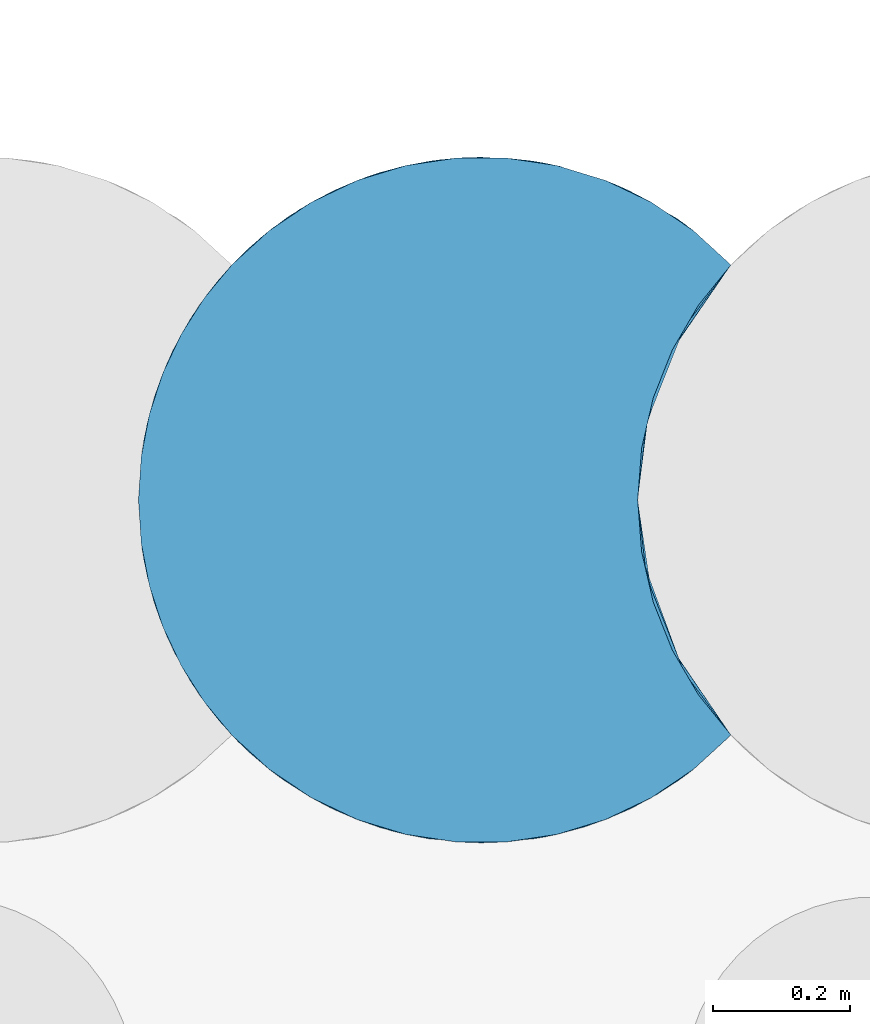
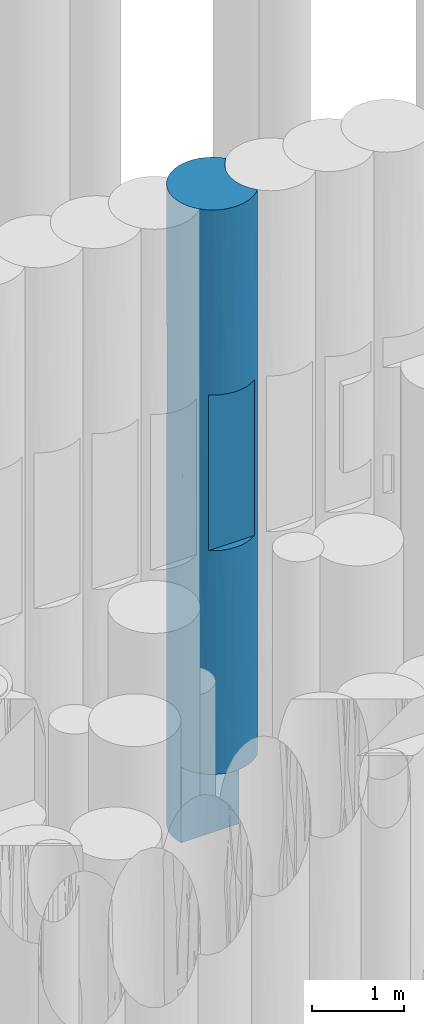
# One storey, part 68 of 104: 1 pile.
"""IFC2X3 building model written with IfcOpenShell, lengths in millimetres."""

from ifc_helpers import new_model, entity, si_unit, converted_unit, derived_unit, direction, frame, origin, place, context, subcontext, project, spatial, faceted_brep, source, transform, mapped, material, element, save


model = new_model("IFC2X3")

# Units and contexts
model_context = context("Model", 3, precision=0.01, world=origin(), true_north=direction((6.12303176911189e-17, 1.0)))
body_context = subcontext(model_context, "Body", "Model", "MODEL_VIEW")
ifc_project = project(units=[si_unit("LENGTHUNIT", "METRE", prefix="MILLI"), si_unit("AREAUNIT", "SQUARE_METRE", prefix="MILLI"), si_unit("VOLUMEUNIT", "CUBIC_METRE"), converted_unit("PLANEANGLEUNIT", "DEGREE", entity("IfcRatioMeasure", 0.0174532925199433), si_unit("PLANEANGLEUNIT", "RADIAN"), dimensions=[0, 0, 0, 0, 0, 0, 0]), si_unit("MASSUNIT", "GRAM", prefix="KILO"), derived_unit("MASSDENSITYUNIT", [(si_unit("MASSUNIT", "GRAM", prefix="KILO"), 1), (si_unit("LENGTHUNIT", "METRE"), -3)]), derived_unit("MOMENTOFINERTIAUNIT", [(si_unit("LENGTHUNIT", "METRE"), 4)]), si_unit("TIMEUNIT", "SECOND"), si_unit("FREQUENCYUNIT", "HERTZ"), si_unit("THERMODYNAMICTEMPERATUREUNIT", "DEGREE_CELSIUS"), derived_unit("THERMALTRANSMITTANCEUNIT", [(si_unit("MASSUNIT", "GRAM", prefix="KILO"), 1), (si_unit("THERMODYNAMICTEMPERATUREUNIT", "KELVIN"), -1), (si_unit("TIMEUNIT", "SECOND"), -3)]), derived_unit("VOLUMETRICFLOWRATEUNIT", [(si_unit("LENGTHUNIT", "METRE"), 3), (si_unit("TIMEUNIT", "SECOND"), -1)]), si_unit("ELECTRICCURRENTUNIT", "AMPERE"), si_unit("ELECTRICVOLTAGEUNIT", "VOLT"), si_unit("POWERUNIT", "WATT"), si_unit("FORCEUNIT", "NEWTON", prefix="KILO"), si_unit("ILLUMINANCEUNIT", "LUX"), si_unit("LUMINOUSFLUXUNIT", "LUMEN"), si_unit("LUMINOUSINTENSITYUNIT", "CANDELA"), derived_unit("USERDEFINED", [(si_unit("MASSUNIT", "GRAM", prefix="KILO"), -1), (si_unit("LENGTHUNIT", "METRE"), -2), (si_unit("TIMEUNIT", "SECOND"), 3), (si_unit("LUMINOUSFLUXUNIT", "LUMEN"), 1)]), derived_unit("LINEARVELOCITYUNIT", [(si_unit("LENGTHUNIT", "METRE"), 1), (si_unit("TIMEUNIT", "SECOND"), -1)]), si_unit("PRESSUREUNIT", "PASCAL"), derived_unit("USERDEFINED", [(si_unit("LENGTHUNIT", "METRE"), -2), (si_unit("MASSUNIT", "GRAM", prefix="KILO"), 1), (si_unit("TIMEUNIT", "SECOND"), -2)]), derived_unit("LINEARFORCEUNIT", [(si_unit("MASSUNIT", "GRAM", prefix="KILO"), 1), (si_unit("LENGTHUNIT", "METRE"), 1), (si_unit("TIMEUNIT", "SECOND"), -2), (si_unit("LENGTHUNIT", "METRE"), -1)]), derived_unit("PLANARFORCEUNIT", [(si_unit("MASSUNIT", "GRAM", prefix="KILO"), 1), (si_unit("LENGTHUNIT", "METRE"), 1), (si_unit("TIMEUNIT", "SECOND"), -2), (si_unit("LENGTHUNIT", "METRE"), -2)])], contexts=[model_context])

# Site, building, storey
site_placement = place(None, origin())
site = spatial("IfcSite", under=ifc_project, at=site_placement, Name="Theater aan de Parade", CompositionType="ELEMENT")
building_placement = place(site_placement, origin())
building = spatial("IfcBuilding", under=site, at=building_placement, Name="Theater aan de Parade", CompositionType="ELEMENT")
storey_placement = place(building_placement, frame((0.0, 0.0, -5520.0)))
storey = spatial("IfcBuildingStorey", under=building, at=storey_placement, Name="-2 kelder", CompositionType="ELEMENT", Elevation=-5520.0)

# Pile
ifc_material = material(Name="00_PBT_MAT_grout")
shared_shape = source(origin(), body_context, "Body", "Brep", [
    faceted_brep([(464.560582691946, 1000.22181762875, 0.0), (538.616668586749, 1000.22280478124, 0.0), (611.860911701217, 989.28522369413, 0.0), (682.686734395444, 967.648790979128, 0.0), (749.540520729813, 935.787802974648, 0.0), (810.955686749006, 894.400737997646, 0.0), (865.59527223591, 844.38383680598, 0.0), (818.150067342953, 785.695330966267, 0.0), (780.078223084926, 720.53458465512, 0.0), (752.247075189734, 650.386060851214, 0.0), (735.290660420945, 576.847851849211, 0.0), (729.595272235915, 501.595272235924, 0.0), (734.989632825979, 428.347327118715, 0.0), (751.055970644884, 356.681032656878, 0.0), (23.0559706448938, 356.681032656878, 0.0), (6.98989759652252, 428.345539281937, 0.0), (1.5952722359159, 501.595272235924, 0.0), (5.55623942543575, 564.406719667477, 0.0), (17.3678310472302, 626.189755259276, 0.0), (36.8430214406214, 686.000655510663, 0.0), (63.6725852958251, 742.891190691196, 0.0), (97.4346759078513, 795.966147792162, 0.0), (137.595794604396, 844.383899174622, 0.0), (192.227350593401, 894.394825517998, 0.0), (253.640398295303, 935.782306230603, 0.0), (320.492432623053, 967.644369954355, 0.0), (391.316996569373, 989.282366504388, 0.0), (865.59527223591, 844.38383680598, 1561.53794073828), (789.40132134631, 910.456713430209, 1491.00548248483), (799.657477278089, 903.041310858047, 2504.88210618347), (26.1639417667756, 656.401764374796, 1423.71039154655), (50.5548382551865, 717.378790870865, 815.522482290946), (716.704326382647, 952.957759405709, 974.743749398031), (575.441567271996, 996.111929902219, 1365.35911550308), (789.401320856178, 910.456713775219, 6978.99451100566), (810.955686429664, 894.400738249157, 8470.0), (865.59527223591, 844.38383680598, 6908.46275058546), (790.879670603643, 909.412065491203, 5813.01191791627), (865.59527223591, 844.38383680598, 5571.7337191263), (865.59527223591, 844.38383680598, 5346.92480984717), (538.616668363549, 1000.22280479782, 8470.0), (611.860911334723, 989.285223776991, 8470.0), (575.441567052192, 996.111929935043, 7150.26699538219), (36.7297114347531, 685.714826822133, 2307.62641859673), (64.0996250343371, 743.664598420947, 1628.37591838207), (222.166559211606, 916.227150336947, 956.748364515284), (355.503556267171, 979.776420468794, 1427.16858692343), (501.588606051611, 1001.59527219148, 2596.73325583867), (463.496981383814, 1000.14167953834, 1072.24580175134), (865.59527223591, 844.38383680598, 8470.0), (222.166558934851, 916.227150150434, 1972.30012717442), (217.544033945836, 913.074183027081, 3221.63866937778), (333.161300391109, 972.371224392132, 2861.22474137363), (286.475705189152, 952.952749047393, 7480.63704182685), (192.227350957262, 894.394825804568, 8470.0), (253.640398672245, 935.78230644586, 8470.0), (100.736484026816, 800.446793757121, 6793.03274327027), (163.989554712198, 870.407391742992, 7127.47212773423), (196.918801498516, 898.044825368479, 6218.94986965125), (785.426204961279, 913.226176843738, 4790.96227754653), (79.757522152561, 770.022008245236, 7621.93766369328), (63.6725852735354, 742.89119065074, 8470.0), (97.4346759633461, 795.966147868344, 8470.0), (692.579720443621, 963.682861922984, 4235.0), (794.511313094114, 906.811502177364, 3679.03770634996), (116.757578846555, 820.812987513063, 1364.08942331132), (716.704325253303, 952.957759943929, 6462.73277506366), (716.704325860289, 952.957759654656, 7495.25624707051), (716.704325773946, 952.957759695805, 2007.26721704), (36.8430215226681, 686.000655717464, 8470.0), (464.560582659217, 1000.22181762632, 8470.0), (682.686733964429, 967.648791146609, 8470.0), (749.540520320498, 935.787803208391, 8470.0), (1.5952722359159, 501.595272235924, 1058.75716887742), (1.5952722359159, 501.595272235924, 1561.53750746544), (286.475704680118, 952.952748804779, 4235.0), (286.475704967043, 952.952748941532, 6434.30301971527), (236.846141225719, 925.750783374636, 5334.65151001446), (13.5254225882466, 610.167008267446, 7372.75274235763), (17.3678311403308, 626.189755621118, 8470.0), (150.377453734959, 857.468907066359, 2562.89631213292), (79.7181549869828, 769.960131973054, 2632.86902156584), (49.3623188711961, 714.868233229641, 6938.44019104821), (712.525517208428, 954.925650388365, 3129.72297922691), (501.588606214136, 1001.59527219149, 5873.26673738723), (569.755285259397, 996.927698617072, 4755.12996065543), (476.322275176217, 1000.95613936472, 5007.14730889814), (391.316996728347, 989.28236654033, 8470.0), (427.735977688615, 996.109988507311, 7104.64110728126), (9.23358182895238, 588.658271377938, 2342.30656064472), (116.757578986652, 820.812987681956, 5893.90174013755), (33.0262183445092, 676.074616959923, 5347.10350774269), (137.605579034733, 844.3947810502, 8470.0), (438.38163008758, 997.583211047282, 3963.78240309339), (320.492432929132, 967.644370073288, 8470.0), (43.0784257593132, 701.000140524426, 4473.88274990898), (11.2142039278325, 599.198591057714, 4667.65803343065), (1.5952722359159, 501.595272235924, 8470.0), (5.55623942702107, 564.406719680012, 8470.0), (9.51542927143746, 590.237407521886, 5495.65544289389), (116.185815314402, 820.122430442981, 3373.1842670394), (182.11813440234, 886.217630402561, 4288.45203817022), (591.824887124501, 993.386504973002, 3489.10403538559), (18.4305593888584, 630.249305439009, 6406.00282362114), (1.5952722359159, 501.595272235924, 2117.50286755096), (1.5952722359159, 501.595272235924, 3123.07501493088), (616.099631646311, 988.30745790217, 2440.53317146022), (386.192771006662, 988.095285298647, 6175.64873710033), (381.51979902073, 986.963051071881, 5169.51578005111), (613.759023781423, 988.852178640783, 6106.01087867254), (692.700363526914, 963.6329807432, 5361.94747271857), (75.4806634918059, 763.179561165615, 5112.4389697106), (135.725798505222, 842.38777243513, 5005.62909266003), (62.9697281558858, 741.611171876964, 3455.71179201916), (97.3058699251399, 795.789220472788, 4263.74923889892), (26.3526093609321, 656.979992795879, 3676.29325435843), (1.5952722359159, 501.595272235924, 3176.2485662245), (1.5952722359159, 501.595272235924, 4234.99353122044), (865.59527223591, 844.38383680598, 3123.07588147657), (865.59527223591, 844.38383680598, 2898.27009289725), (865.59527223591, 844.38383680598, 4235.00034566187), (1.5952722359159, 501.595272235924, 5346.92498506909), (1.5952722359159, 501.595272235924, 5571.73182473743), (1.5952722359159, 501.595272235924, 6908.46249253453), (9.64635078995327, 412.229402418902, 1740.22189428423), (142.565506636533, 153.604428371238, 5505.0), (213.720794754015, 92.7820077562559, 4990.0), (213.720794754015, 92.7820077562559, 6020.0), (105.373424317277, 196.6227370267, 4545.399296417), (23.0559706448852, 356.681032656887, 1000.0), (118.439637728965, 180.360529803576, 2386.19848820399), (32.2090199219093, 329.326452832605, 2204.61529178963), (68.8651327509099, 251.106497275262, 1000.0), (42.9242829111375, 302.54521935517, 1000.0), (789.469749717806, 92.7820077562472, 3960.0), (865.59527223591, 158.806707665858, 2867.49999999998), (865.59527223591, 158.806707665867, 3648.28895539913), (865.59527223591, 158.806707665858, 3801.24999999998), (865.59527223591, 158.806707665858, 4735.0), (865.59527223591, 158.806707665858, 5668.74999999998), (865.59527223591, 158.806707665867, 5821.74150431), (865.59527223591, 158.806707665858, 6602.49999999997), (789.469749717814, 92.7820077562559, 6020.0), (789.469749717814, 92.7820077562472, 4990.0), (8.81751859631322, 416.918914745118, 2646.87500001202), (286.466151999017, 50.2423486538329, 2461.24897887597), (193.922353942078, 107.466644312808, 2892.94714577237), (210.051202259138, 95.3908221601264, 1944.41924411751), (163.989554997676, 132.783152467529, 7198.38299068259), (79.7181554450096, 233.230411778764, 6604.44114999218), (148.07219095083, 148.011574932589, 6362.25527219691), (31.1680313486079, 332.18980883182, 6056.3249096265), (75.690496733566, 239.669477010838, 5519.99565303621), (253.629698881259, 67.4143486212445, 1000.0), (320.484188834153, 35.5493780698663, 1000.0), (55.153250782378, 276.451936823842, 3318.42122771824), (757.302459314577, 71.9281516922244, 3141.67756733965), (789.630291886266, 92.8951040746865, 2324.13442625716), (391.312227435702, 13.9092564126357, 1000.0), (370.182009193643, 19.1737197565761, 1947.89605695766), (279.558542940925, 53.6000815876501, 3960.0), (391.331294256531, 13.9049451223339, 2895.75417679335), (100.558387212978, 202.982786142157, 1000.0), (137.595272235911, 158.806707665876, 1000.0), (464.559880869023, 2.96877897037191, 1000.0), (501.5899885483, 1.59527226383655, 2460.40757830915), (29.9326481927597, 335.660438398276, 4903.36557309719), (121.469006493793, 176.781445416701, 3478.13394910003), (26.1639420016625, 346.788779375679, 7201.03028685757), (5.55623942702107, 438.783824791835, 8470.0), (79.7181554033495, 233.230411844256, 7559.63491729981), (63.6725852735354, 260.299353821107, 8470.0), (36.8430215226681, 317.189888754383, 8470.0), (810.967462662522, 108.799081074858, 1000.0), (865.59527223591, 158.806707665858, 1000.0), (865.59527223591, 158.806707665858, 1780.76885310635), (17.3678311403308, 377.000788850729, 8470.0), (137.605579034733, 158.795763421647, 8470.0), (865.59527223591, 158.806707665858, 7689.2311468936), (865.59527223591, 158.806707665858, 8470.0), (810.955686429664, 108.78980622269, 8470.0), (253.008900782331, 67.7694823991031, 7429.16293872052), (279.558542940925, 53.6000815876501, 6020.0), (749.5521658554, 67.40939164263, 1000.0), (192.227350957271, 108.795718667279, 8470.0), (192.215508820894, 108.805045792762, 1000.0), (355.503557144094, 23.4141237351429, 7268.21560542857), (14.4149384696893, 389.099395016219, 3705.62500005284), (320.492432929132, 35.5461743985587, 8470.0), (391.316996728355, 13.9081779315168, 8470.0), (350.609564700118, 24.9367822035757, 6020.0), (501.595272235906, 1.59527223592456, 3960.0), (425.205629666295, 7.4651046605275, 3960.0), (538.620125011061, 2.96799633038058, 1000.0), (611.86810266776, 13.9069466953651, 1000.0), (595.054059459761, 10.4074720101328, 1977.18955440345), (682.696772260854, 35.5456539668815, 1000.0), (688.656307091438, 37.9055384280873, 2500.38408566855), (97.4346759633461, 207.224396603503, 8470.0), (682.68673396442, 35.5417533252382, 8470.0), (611.860911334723, 13.9053206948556, 8470.0), (611.870435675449, 13.9074742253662, 7434.83465826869), (595.688957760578, 10.5287000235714, 2967.02304747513), (577.984914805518, 7.4651046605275, 3960.0), (749.540520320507, 67.4027412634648, 8470.0), (716.704326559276, 50.2327851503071, 7267.64689878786), (803.386835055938, 102.945234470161, 7145.86557351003), (577.984914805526, 7.4651046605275, 6020.0), (501.58860727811, 1.5952722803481, 7268.66818084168), (501.595272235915, 1.59527223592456, 6020.0), (723.632001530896, 53.6000815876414, 6020.0), (865.59527223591, 158.806707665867, 2561.54745108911), (652.580979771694, 24.9367822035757, 3960.0), (723.632001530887, 53.6000815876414, 3960.0), (213.720794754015, 92.7820077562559, 3960.0), (253.640398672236, 67.4082380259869, 8470.0), (425.205629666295, 7.4651046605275, 6020.0), (464.560582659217, 2.96872684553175, 8470.0), (652.580979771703, 24.9367822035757, 6020.0), (538.616668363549, 2.96773967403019, 8470.0), (865.59527223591, 158.806707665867, 6908.48300862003), (350.609564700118, 24.9367822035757, 3960.0), (818.150067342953, 217.49521350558, 8470.0), (780.078223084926, 282.655959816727, 8470.0), (752.247075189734, 352.804483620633, 8470.0), (735.290660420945, 426.342692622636, 8470.0), (729.595272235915, 501.595272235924, 8470.0), (735.290660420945, 576.847851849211, 8470.0), (752.247075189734, 650.386060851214, 8470.0), (780.078223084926, 720.53458465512, 8470.0), (818.150067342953, 785.695330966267, 8470.0), (742.379444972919, 613.937328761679, 959.062888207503), (738.151011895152, 593.695972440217, 6638.44327873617), (742.379444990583, 613.937328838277, 7510.93711044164), (729.595272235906, 501.595272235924, 6908.4597613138), (808.6817168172, 771.468907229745, 6638.44327726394), (781.985001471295, 724.40695394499, 5169.28730842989), (797.88300515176, 753.834282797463, 959.062888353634), (764.837270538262, 685.986160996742, 1706.36651512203), (797.88300519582, 753.834282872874, 7510.93711014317), (729.595272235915, 501.595272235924, 1561.54023868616), (729.595272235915, 501.595272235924, 1058.75298998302), (808.681716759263, 771.468907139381, 1831.5567211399), (778.799150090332, 717.888721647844, 2630.65322090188), (766.296890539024, 689.62348691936, 3566.6344277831), (739.967026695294, 602.90756748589, 2500.19182196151), (729.595272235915, 501.595272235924, 3123.08047737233), (729.595272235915, 501.595272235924, 2117.50597996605), (764.837270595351, 685.986161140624, 6763.63348211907), (798.309538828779, 754.56289103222, 4260.62631723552), (810.907944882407, 774.909966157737, 3324.34692372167), (745.175048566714, 625.438103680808, 5612.66192558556), (744.930852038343, 624.47895624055, 4544.29323307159), (738.502483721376, 595.552033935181, 3413.30504808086), (729.595272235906, 501.595272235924, 4235.01242423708), (729.595272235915, 501.595272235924, 5571.72573206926), (729.595272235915, 501.595272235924, 5346.93194686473), (729.595272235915, 501.595272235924, 3176.24701001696), (737.652631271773, 412.194835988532, 1740.61215192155), (796.863622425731, 251.109106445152, 1977.49082641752), (808.103941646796, 232.6249053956, 2870.3140688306), (817.383474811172, 218.608639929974, 1000.0), (751.055970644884, 356.681032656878, 1000.0), (797.883005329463, 249.356261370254, 7510.93711074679), (762.458274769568, 323.317327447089, 4903.36557316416), (741.179889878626, 394.588663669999, 5988.20523574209), (778.685121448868, 285.53964070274, 5822.23176538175), (742.379445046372, 389.253215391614, 7510.93711054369), (764.837270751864, 317.204382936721, 6763.63348277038), (808.681717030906, 231.721636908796, 6638.4432792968), (736.645152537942, 417.928196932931, 2646.87500001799), (763.601591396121, 320.349887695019, 2739.7907128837), (778.90094510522, 285.089790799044, 1000.0), (736.819640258, 416.906568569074, 5098.3280587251), (739.996017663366, 400.142968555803, 3705.62500000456), (776.673795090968, 289.788436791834, 3825.90126919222), (807.285378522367, 233.91196369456, 5061.92209300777)], [[[0, 1, 2, 3, 4, 5, 6, 7, 8, 9, 10, 11, 12, 13, 14, 15, 16, 17, 18, 19, 20, 21, 22, 23, 24, 25, 26]], [[27, 28, 29]], [[18, 30, 31]], [[4, 3, 32]], [[32, 2, 33]], [[34, 35, 36]], [[37, 36, 38, 39]], [[40, 41, 42]], [[30, 43, 44]], [[45, 46, 25]], [[47, 33, 48]], [[6, 5, 27]], [[35, 49, 36]], [[1, 48, 33]], [[26, 46, 48]], [[50, 51, 52]], [[53, 54, 55]], [[56, 57, 58]], [[37, 39, 59]], [[28, 5, 32]], [[60, 61, 62]], [[63, 59, 64]], [[25, 46, 26]], [[45, 22, 65]], [[24, 23, 45]], [[66, 67, 34]], [[28, 32, 68]], [[25, 24, 45]], [[69, 61, 60]], [[70, 40, 42]], [[67, 71, 72]], [[0, 48, 1]], [[42, 41, 67]], [[17, 16, 73, 74]], [[52, 51, 75]], [[58, 76, 77]], [[31, 21, 20]], [[69, 78, 79]], [[1, 33, 2]], [[65, 50, 45]], [[31, 19, 18]], [[80, 65, 81]], [[78, 69, 82]], [[64, 29, 83]], [[17, 74, 30]], [[84, 85, 86]], [[53, 87, 88]], [[30, 74, 89]], [[30, 18, 17]], [[42, 84, 88]], [[82, 90, 91]], [[57, 60, 92]], [[4, 32, 5]], [[88, 87, 70]], [[52, 93, 47]], [[94, 53, 55]], [[95, 96, 91]], [[42, 88, 70]], [[97, 98, 78]], [[54, 53, 57]], [[92, 54, 57]], [[91, 96, 99]], [[51, 100, 101]], [[102, 63, 83]], [[57, 56, 60]], [[44, 31, 30]], [[99, 103, 91]], [[78, 98, 79]], [[50, 52, 46]], [[65, 22, 21]], [[89, 74, 104, 105]], [[75, 101, 77]], [[106, 33, 47]], [[33, 68, 32]], [[42, 67, 66]], [[107, 84, 108]], [[88, 76, 53]], [[67, 41, 71]], [[109, 42, 66]], [[53, 94, 87]], [[57, 53, 76]], [[32, 3, 2]], [[45, 23, 22]], [[46, 45, 50]], [[67, 72, 35]], [[106, 83, 68]], [[110, 66, 37]], [[111, 90, 112]], [[95, 91, 111]], [[51, 101, 75]], [[100, 113, 114]], [[93, 52, 75]], [[47, 46, 52]], [[108, 93, 75]], [[102, 85, 63]], [[89, 43, 30]], [[115, 105, 116, 117]], [[29, 28, 68]], [[5, 28, 27]], [[83, 29, 68]], [[29, 118, 119, 27]], [[102, 106, 47]], [[59, 39, 120]], [[47, 93, 102]], [[108, 86, 93]], [[93, 85, 102]], [[110, 109, 66]], [[110, 59, 63]], [[118, 64, 120]], [[59, 120, 64]], [[63, 85, 110]], [[109, 85, 84]], [[85, 109, 110]], [[42, 109, 84]], [[29, 64, 118]], [[64, 83, 63]], [[110, 37, 59]], [[37, 66, 34]], [[35, 34, 67]], [[37, 34, 36]], [[77, 108, 75]], [[88, 107, 76]], [[83, 106, 102]], [[33, 106, 68]], [[80, 51, 50]], [[80, 100, 51]], [[114, 112, 101]], [[57, 76, 58]], [[77, 101, 112]], [[108, 77, 76]], [[65, 80, 50]], [[100, 80, 81]], [[113, 100, 81]], [[101, 100, 114]], [[43, 113, 81]], [[113, 115, 95]], [[111, 112, 114]], [[112, 90, 58]], [[114, 113, 95]], [[90, 111, 91]], [[114, 95, 111]], [[117, 96, 115]], [[99, 96, 121]], [[115, 96, 95]], [[121, 96, 117]], [[99, 121, 122, 123]], [[123, 78, 103]], [[112, 58, 77]], [[56, 58, 90]], [[103, 78, 82]], [[78, 123, 97]], [[91, 103, 82]], [[123, 103, 99]], [[105, 115, 89]], [[115, 113, 43]], [[115, 43, 89]], [[44, 81, 65]], [[81, 44, 43]], [[65, 21, 31]], [[65, 31, 44]], [[19, 31, 20]], [[90, 82, 56]], [[60, 56, 82]], [[60, 82, 69]], [[60, 62, 92]], [[26, 48, 0]], [[47, 48, 46]], [[93, 86, 85]], [[108, 84, 86]], [[84, 107, 88]], [[108, 76, 107]], [[124, 104, 74, 73]], [[125, 126, 127]], [[126, 125, 128]], [[129, 15, 14]], [[130, 131, 132]], [[129, 133, 131]], [[134, 135, 136, 137, 138, 139, 140, 141, 142, 143]], [[144, 116, 105, 104]], [[132, 131, 133]], [[129, 124, 73]], [[145, 146, 147]], [[148, 149, 150]], [[149, 151, 152]], [[145, 153, 154]], [[131, 130, 155]], [[135, 156, 157]], [[154, 158, 159]], [[153, 145, 147]], [[160, 145, 161]], [[130, 162, 163]], [[164, 165, 159]], [[122, 166, 151]], [[160, 146, 145]], [[130, 167, 155]], [[123, 168, 169]], [[148, 170, 149]], [[170, 171, 172]], [[173, 174, 175]], [[176, 168, 172]], [[123, 122, 151]], [[170, 172, 168]], [[170, 148, 177]], [[178, 179, 180]], [[181, 127, 182]], [[183, 173, 157]], [[128, 166, 155]], [[184, 177, 148]], [[147, 163, 185]], [[181, 182, 186]], [[187, 166, 117]], [[181, 184, 148]], [[188, 186, 189]], [[186, 188, 181]], [[186, 182, 190]], [[187, 116, 144]], [[131, 144, 124]], [[168, 149, 170]], [[169, 97, 123]], [[168, 151, 149]], [[161, 191, 192]], [[150, 125, 127]], [[165, 164, 193]], [[166, 122, 121, 117]], [[193, 194, 195]], [[195, 196, 197]], [[170, 177, 198]], [[165, 161, 159]], [[199, 200, 201]], [[191, 161, 165]], [[191, 165, 202]], [[127, 148, 150]], [[191, 202, 203]], [[187, 117, 116]], [[204, 205, 206]], [[207, 208, 209]], [[206, 210, 142]], [[157, 175, 211, 135]], [[197, 156, 212]], [[202, 195, 197]], [[130, 146, 167]], [[173, 175, 157]], [[213, 156, 134]], [[146, 160, 214]], [[180, 204, 206]], [[188, 215, 181]], [[183, 197, 196]], [[130, 132, 162]], [[216, 186, 190]], [[208, 217, 189]], [[218, 205, 201]], [[186, 216, 208]], [[156, 135, 134]], [[208, 189, 186]], [[212, 156, 213]], [[217, 208, 219]], [[219, 208, 201]], [[183, 157, 197]], [[218, 201, 207]], [[208, 216, 209]], [[212, 203, 202]], [[169, 168, 176]], [[144, 155, 187]], [[210, 205, 218]], [[128, 214, 126]], [[199, 205, 204]], [[151, 168, 123]], [[206, 142, 141]], [[206, 141, 220, 178]], [[152, 125, 150]], [[219, 201, 200]], [[198, 171, 170]], [[197, 157, 156]], [[152, 166, 128]], [[161, 221, 160]], [[166, 152, 151]], [[166, 187, 155]], [[128, 125, 152]], [[124, 144, 104]], [[144, 131, 155]], [[15, 129, 73]], [[131, 124, 129]], [[180, 206, 178]], [[16, 15, 73]], [[206, 205, 210]], [[152, 150, 149]], [[167, 214, 128]], [[130, 163, 147]], [[214, 167, 146]], [[155, 167, 128]], [[130, 147, 146]], [[153, 147, 185]], [[221, 161, 192]], [[159, 161, 145]], [[154, 159, 145]], [[159, 158, 164]], [[195, 202, 165]], [[212, 202, 197]], [[193, 195, 165]], [[195, 194, 196]], [[184, 181, 215]], [[181, 148, 127]], [[207, 201, 208]], [[199, 201, 205]], [[72, 71, 41, 40, 70, 87, 94, 55, 54, 92, 62, 61, 69, 79, 98, 97, 169, 176, 172, 171, 198, 177, 184, 215, 188, 189, 217, 219, 200, 199, 204, 180, 179, 222, 223, 224, 225, 226, 227, 228, 229, 230, 49, 35]], [[10, 9, 231]], [[232, 233, 234]], [[38, 235, 236]], [[231, 237, 238]], [[6, 237, 7]], [[231, 9, 237]], [[239, 36, 49]], [[27, 237, 6]], [[231, 240, 241, 11]], [[234, 233, 226]], [[227, 226, 233]], [[238, 237, 242]], [[243, 244, 245]], [[245, 246, 247, 240]], [[230, 229, 239]], [[233, 248, 239]], [[243, 242, 119]], [[249, 244, 250]], [[233, 239, 229, 228]], [[228, 227, 233]], [[8, 7, 237]], [[251, 252, 236]], [[237, 9, 8]], [[10, 231, 11]], [[240, 231, 245]], [[248, 233, 232]], [[230, 239, 49]], [[36, 239, 235]], [[119, 250, 243]], [[242, 237, 27]], [[253, 245, 244]], [[252, 253, 244]], [[239, 248, 235]], [[238, 242, 243]], [[242, 27, 119]], [[238, 243, 245]], [[250, 244, 243]], [[231, 238, 245]], [[253, 246, 245]], [[249, 252, 244]], [[250, 119, 118, 120]], [[252, 254, 253]], [[249, 250, 120]], [[236, 248, 251]], [[232, 234, 255, 256]], [[249, 120, 39, 38]], [[235, 248, 236]], [[38, 36, 235]], [[38, 236, 249]], [[249, 236, 252]], [[232, 256, 251]], [[252, 251, 256]], [[232, 251, 248]], [[253, 254, 257, 246]], [[252, 256, 254]], [[258, 241, 240, 247]], [[211, 259, 260]], [[261, 259, 174]], [[13, 12, 262]], [[222, 179, 263]], [[258, 262, 241]], [[264, 265, 266]], [[267, 234, 226]], [[225, 224, 267]], [[268, 263, 269]], [[270, 271, 258]], [[261, 272, 259]], [[258, 271, 259]], [[223, 263, 267, 224]], [[259, 211, 175, 174]], [[263, 268, 267]], [[270, 247, 246, 257]], [[262, 259, 272]], [[260, 259, 271]], [[265, 264, 273]], [[254, 274, 257]], [[269, 263, 220]], [[223, 222, 263]], [[263, 179, 178, 220]], [[225, 267, 226]], [[234, 267, 265]], [[265, 255, 234]], [[271, 275, 260]], [[268, 266, 265]], [[275, 138, 137, 136]], [[275, 276, 138]], [[275, 136, 260]], [[275, 271, 274]], [[260, 136, 135, 211]], [[274, 273, 264]], [[270, 257, 274]], [[275, 274, 264]], [[247, 270, 258]], [[271, 270, 274]], [[241, 262, 12]], [[259, 262, 258]], [[268, 269, 266]], [[241, 12, 11]], [[266, 269, 140]], [[266, 140, 276]], [[269, 220, 141, 140]], [[276, 264, 266]], [[267, 268, 265]], [[273, 255, 265]], [[264, 276, 275]], [[276, 140, 139, 138]], [[273, 254, 256, 255]], [[254, 273, 274]], [[133, 129, 262, 272, 261, 174, 173, 183, 196, 194, 193, 164, 158, 154, 153, 185, 163, 162, 132]], [[129, 14, 13, 262]], [[209, 216, 190, 182, 127, 142, 210, 218, 207]], [[214, 134, 143, 142, 127, 126]], [[160, 221, 192, 191, 203, 212, 213, 134, 214]]]),
])
pile_placement = place(storey_placement, frame((39248.2628578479, 43807.2179922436, -3840.0)))
element("IfcPile", 1, at=pile_placement, inside=storey, material=ifc_material, Name="17_PBT_SFO_grondkering_rond:Ø1000 (grondkering)", ObjectType="17_PBT_SFO_grondkering_rond:Ø1000 (grondkering)", PredefinedType="NOTDEFINED", context=body_context, shape_type="MappedRepresentation", body=[
    mapped(shared_shape, transform((0.0, 0.0, 0.0), scale=1.0)),
])

save(model, "model.ifc")
